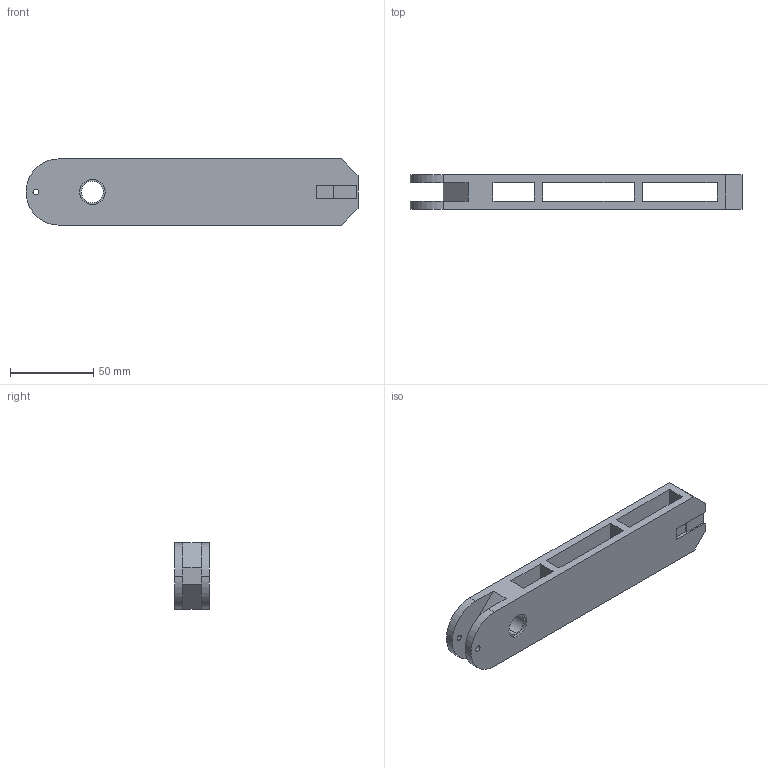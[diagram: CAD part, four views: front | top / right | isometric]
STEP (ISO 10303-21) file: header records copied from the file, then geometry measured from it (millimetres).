
FILE_DESCRIPTION (( 'STEP AP203' ), '1' );
FILE_NAME ('arm2.STEP', '2017-06-25T11:34:40', ( '' ), ( '' ), 'SwSTEP 2.0', 'SolidWorks 2016', '' );
FILE_SCHEMA (( 'CONFIG_CONTROL_DESIGN' ));
Length unit declared in the file: millimetre
Products named in the file (1): arm2
Bounding box: 200 x 21 x 40 mm (x, y, z)
Volume: 94220.2 mm3; surface area: 36931.5 mm2
Topology: 1 solids, 1 shells, 58 faces, 158 edges, 104 vertices
Faces by surface type: plane 44, cylinder 14
Entity records: 1919 total; most frequent: CARTESIAN_POINT 321, ORIENTED_EDGE 316, DIRECTION 304, EDGE_CURVE 158, LINE 130, VECTOR 130, VERTEX_POINT 104, AXIS2_PLACEMENT_3D 87
